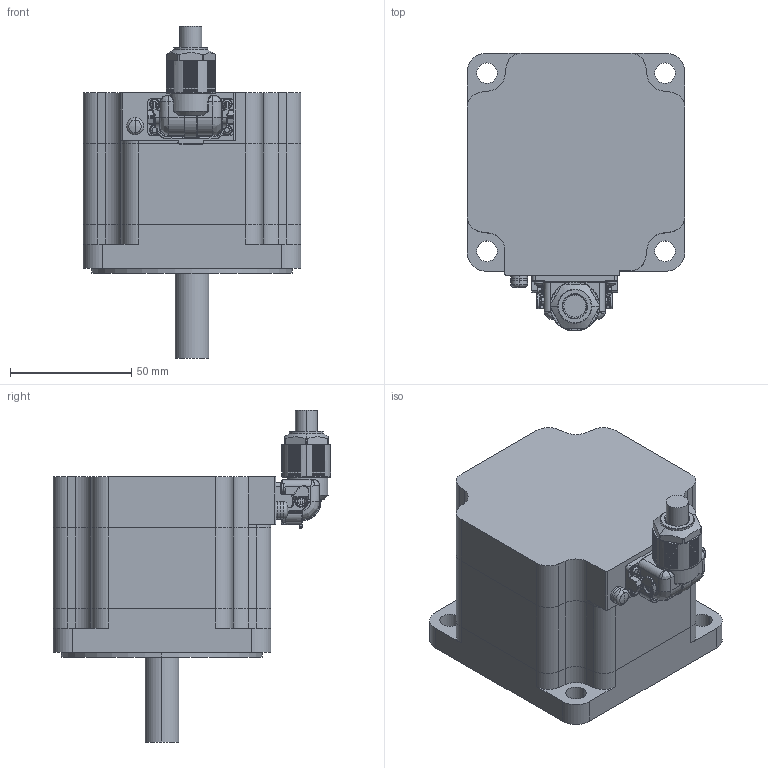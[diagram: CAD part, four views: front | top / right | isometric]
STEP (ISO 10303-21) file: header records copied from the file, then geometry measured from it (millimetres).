
FILE_DESCRIPTION (( 'STEP AP203' ), '1' );
FILE_NAME ('A1760_B.step', '2025-10-07T05:05:59', ( '' ), ( '' ), 'SwSTEP 2.0', 'SolidWorks 2023', '' );
FILE_SCHEMA (( 'CONFIG_CONTROL_DESIGN' ));
Products named in the file (1): A1760_B
Bounding box: 90 x 114.8 x 137.1 mm (x, y, z)
Volume: 552716.2 mm3; surface area: 49716.1 mm2
Topology: 3 solids, 9 shells, 1155 faces, 2982 edges, 1837 vertices
Faces by surface type: plane 502, cylinder 450, bspline 148, cone 28, torus 25, sphere 2
Entity records: 38675 total; most frequent: CARTESIAN_POINT 11968, ORIENTED_EDGE 5916, DIRECTION 5150, EDGE_CURVE 2958, VERTEX_POINT 1837, AXIS2_PLACEMENT_3D 1764, VECTOR 1622, LINE 1622
